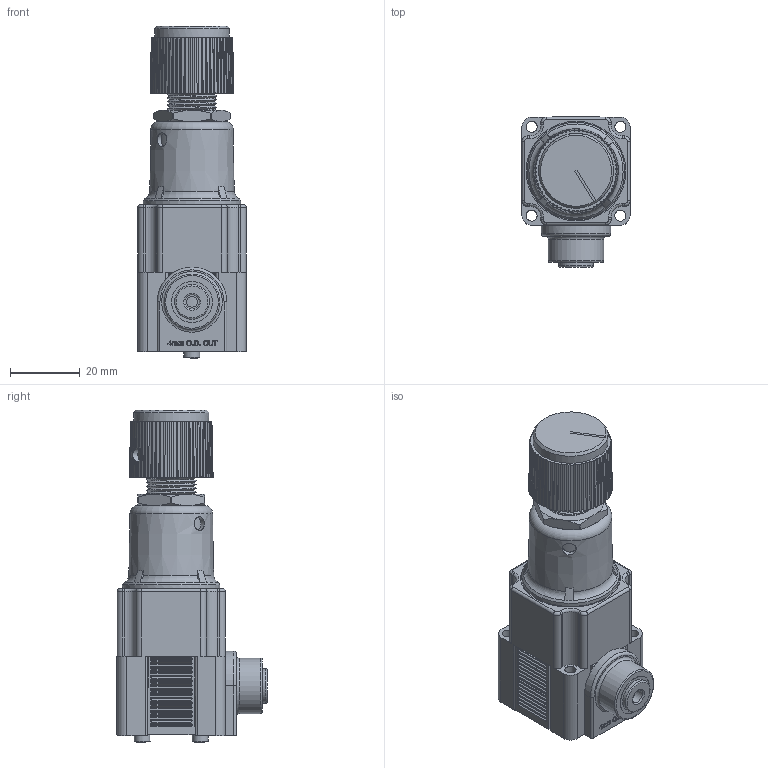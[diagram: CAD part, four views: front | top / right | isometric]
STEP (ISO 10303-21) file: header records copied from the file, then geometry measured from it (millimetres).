
FILE_DESCRIPTION(/* description */ (''),/* implementation_level */ '2;1');
FILE_NAME(/* name */ 'K:\Normteile INVENTOR\Air-Logic\Regulators\R6000\R 6___ 7 Push-In Fitting for 4mm O.D. Tube Out.igs.ipt.stp',/* time_stamp */ '2020-05-27T10:57:47+02:00',/* author */ ('Paul'),/* organization */ (''),/* preprocessor_version */ 'ST-DEVELOPER v18',/* originating_system */ 'Autodesk Inventor 2020',/* authorisation */ '');
FILE_SCHEMA (('AUTOMOTIVE_DESIGN { 1 0 10303 214 3 1 1 }'));
Length unit declared in the file: inch
Products named in the file (1): R 6___ 7 Push-In Fitting for 4mm O.D. Tube Out.igs
Bounding box: 31.19 x 43.08 x 95.02 mm (x, y, z)
Volume: 58874.8 mm3; surface area: 18119.7 mm2
Topology: 1 solids, 1 shells, 1104 faces, 2869 edges, 1856 vertices
Faces by surface type: plane 542, cylinder 352, bspline 91, cone 83, torus 36
Full cylindrical faces by diameter (mm): 1.194 x1, 2.032 x1, 3.073 x1, 3.124 x2, 3.175 x8, 3.988 x1, 4.064 x1, 4.089 x1, 4.521 x2, 6.045 x1, 8.382 x2, 9.169 x1, 9.398 x1, 9.906 x1, 11.735 x1, 12.903 x1, 15.85 x1, 19.406 x1, 21.476 x1, 27.94 x1, 28.575 x1
Entity records: 40674 total; most frequent: CARTESIAN_POINT 12297, ORIENTED_EDGE 5738, DIRECTION 5712, EDGE_CURVE 2869, AXIS2_PLACEMENT_3D 2152, VERTEX_POINT 1856, LINE 1408, VECTOR 1408
